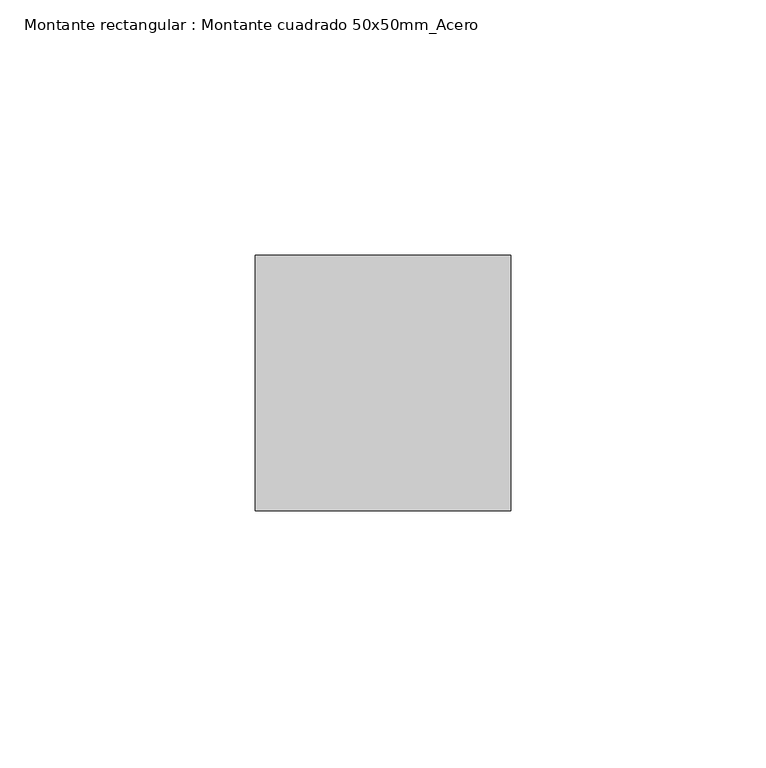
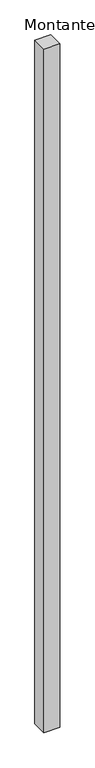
"""IFC4 building model written with IfcOpenShell, lengths in millimetres: member geometry, Montante rectangular : Montante cuadrado 50x50mm_Acero."""

import ifcopenshell
import ifcopenshell.guid

model = None  # the IFC model being written
_history = None  # IfcOwnerHistory: only IFC2X3 demands one
_inside = {}  # id of a spatial element -> (the spatial element, [elements in it])
_under = {}  # id of a project, library or spatial element -> (it, [spatial elements below it])
_declared = {}  # id of a project -> (the project, [libraries it declares])
_typed = {}  # id of a type object -> (the type object, [elements of that type])
_made_of = {}  # id of a material, layer set ... -> (it, [elements and type objects made of it])


def new_model(schema):
    """Start an empty IFC model of exactly this schema.

    Asked for "IFC4X3", IfcOpenShell would pick the latest addendum, in which some entities
    have other attributes; the version numbers below select the first issue.
    IFC2X3 requires an IfcOwnerHistory on every rooted entity: one is made here for all.
    """
    global model, _history
    if schema == "IFC4X3":
        model = ifcopenshell.file(schema_version=(4, 3, 0, 0))
    else:
        model = ifcopenshell.file(schema=schema)
    _inside.clear()
    _under.clear()
    _declared.clear()
    _typed.clear()
    _made_of.clear()
    _history = None
    if model.schema == "IFC2X3":
        org = make("IfcOrganization", Name="unknown")
        user = make(
            "IfcPersonAndOrganization",
            ThePerson=make("IfcPerson", FamilyName="unknown"),
            TheOrganization=org,
        )
        app = make(
            "IfcApplication",
            ApplicationDeveloper=org,
            Version="unknown",
            ApplicationFullName="unknown",
            ApplicationIdentifier="unknown",
        )
        _history = make(
            "IfcOwnerHistory",
            OwningUser=user,
            OwningApplication=app,
            ChangeAction="ADDED",
            CreationDate=0,
        )
    return model


def make(cls, **values):
    """One entity of the class cls with the attributes given. An attribute that is None is left unset."""
    return model.create_entity(
        cls, **{name: value for name, value in values.items() if value is not None}
    )


def rooted(cls, **values):
    """An entity with a GlobalId (a new one), such as an element, a storey or a relation."""
    return make(cls, GlobalId=ifcopenshell.guid.new(), OwnerHistory=_history, **values)


def si_unit(unit_type, name, prefix=None):
    """IfcSIUnit, for example si_unit("LENGTHUNIT", "METRE", prefix="MILLI")."""
    return make("IfcSIUnit", UnitType=unit_type, Prefix=prefix, Name=name)


def assignment(units):
    """IfcUnitAssignment: the units of a project."""
    return None if units is None else make("IfcUnitAssignment", Units=units)


def point(xyz):
    """IfcCartesianPoint."""
    return None if xyz is None else make("IfcCartesianPoint", Coordinates=xyz)


def direction(xyz):
    """IfcDirection."""
    return None if xyz is None else make("IfcDirection", DirectionRatios=xyz)


def frame(location, z_axis=None, x_axis=None):
    """IfcAxis2Placement3D, a coordinate frame: its origin and axes. An axis left out is left unset."""
    return make(
        "IfcAxis2Placement3D",
        Location=point(location),
        Axis=direction(z_axis),
        RefDirection=direction(x_axis),
    )


def origin():
    """The frame at (0, 0, 0) with its axes left unset."""
    return frame((0.0, 0.0, 0.0))


def place(relative_to, where):
    """IfcLocalPlacement: puts the frame where relative to a parent placement (None: the world)."""
    return make(
        "IfcLocalPlacement", PlacementRelTo=relative_to, RelativePlacement=where
    )


def context(
    kind, dimensions, precision=None, world=None, true_north=None, identifier=None
):
    """IfcGeometricRepresentationContext, for example the 3D "Model" context."""
    return make(
        "IfcGeometricRepresentationContext",
        ContextIdentifier=identifier,
        ContextType=kind,
        CoordinateSpaceDimension=dimensions,
        Precision=precision,
        WorldCoordinateSystem=world,
        TrueNorth=true_north,
    )


def project(units=None, contexts=None):
    """IfcProject with its units and contexts."""
    return rooted(
        "IfcProject",
        Name="project",
        RepresentationContexts=contexts,
        UnitsInContext=assignment(units),
    )


def spatial(cls, under=None, at=None, **own):
    """A site, building, storey or space (cls), placed at a placement, below another one or the project."""
    s = rooted(cls, ObjectPlacement=at, **own)
    if under is not None:
        _under.setdefault(under.id(), (under, []))[1].append(s)
    return s


def polyline(points):
    """IfcPolyline through the points."""
    return make("IfcPolyline", Points=[point(p) for p in points])


def outline(outer, holes=None, kind="AREA"):
    """IfcArbitraryClosedProfileDef: a profile drawn as a closed curve; with holes, ...WithVoids."""
    if holes is None:
        return make("IfcArbitraryClosedProfileDef", ProfileType=kind, OuterCurve=outer)
    return make(
        "IfcArbitraryProfileDefWithVoids",
        ProfileType=kind,
        OuterCurve=outer,
        InnerCurves=holes,
    )


def extrude(swept, where, along, depth):
    """IfcExtrudedAreaSolid: the profile swept, set in the frame where, extruded along a direction by depth."""
    return make(
        "IfcExtrudedAreaSolid",
        SweptArea=swept,
        Position=where,
        ExtrudedDirection=direction(along),
        Depth=depth,
    )


def shape(context_of_items, identifier, shape_type, items):
    """IfcShapeRepresentation: the items that make up one representation, for example the "Body"."""
    return make(
        "IfcShapeRepresentation",
        ContextOfItems=context_of_items,
        RepresentationIdentifier=identifier,
        RepresentationType=shape_type,
        Items=items,
    )


def source(mapping_origin, context_of_items, identifier, shape_type, items):
    """IfcRepresentationMap: a shape defined once, which mapped items show again and again."""
    return make(
        "IfcRepresentationMap",
        MappingOrigin=mapping_origin,
        MappedRepresentation=shape(context_of_items, identifier, shape_type, items),
    )


def transform(
    local_origin,
    x_axis=None,
    y_axis=None,
    z_axis=None,
    scale=None,
    scale2=None,
    scale3=None,
    uniform=True,
):
    """IfcCartesianTransformationOperator3D, or its non-uniform kind. x_axis, y_axis, z_axis: its Axis1, 2, 3."""
    if uniform:
        return make(
            "IfcCartesianTransformationOperator3D",
            Axis1=direction(x_axis),
            Axis2=direction(y_axis),
            LocalOrigin=point(local_origin),
            Scale=scale,
            Axis3=direction(z_axis),
        )
    return make(
        "IfcCartesianTransformationOperator3DnonUniform",
        Axis1=direction(x_axis),
        Axis2=direction(y_axis),
        LocalOrigin=point(local_origin),
        Scale=scale,
        Axis3=direction(z_axis),
        Scale2=scale2,
        Scale3=scale3,
    )


def mapped(mapping_source, mapping_target):
    """IfcMappedItem: shows the shape of a source again, moved by a transform."""
    return make(
        "IfcMappedItem", MappingSource=mapping_source, MappingTarget=mapping_target
    )


def made_of(thing, what):
    """Note that an element or type object is made of a material, layer set ...; save() writes the relation."""
    if what is not None:
        _made_of.setdefault(what.id(), (what, []))[1].append(thing)
    return thing


def element(
    cls,
    number,
    at=None,
    inside=None,
    cuts=None,
    type_object=None,
    material=None,
    context=None,
    identifier="Body",
    shape_type=None,
    held_by="IfcProductDefinitionShape",
    body=None,
    shapes=None,
    **own,
):
    """One element of the class cls, such as IfcWall. Its Tag is "e" and its number.

    at: its placement. inside: the storey or other place that contains it. cuts: it is an
    opening in that element (IfcRelVoidsElement). A single representation is given by context,
    identifier, shape_type and body (its items); several are given by shapes. held_by: the class
    of the entity that holds the representations. save() writes the other relations.
    """
    e = rooted(cls, Tag="e%d" % number, ObjectPlacement=at, **own)
    if body is not None:
        shapes = [shape(context, identifier, shape_type, body)]
    if shapes is not None:
        e.Representation = make(held_by, Representations=shapes)
    if inside is not None:
        _inside.setdefault(inside.id(), (inside, []))[1].append(e)
    if cuts is not None:
        rooted(
            "IfcRelVoidsElement", RelatingBuildingElement=cuts, RelatedOpeningElement=e
        )
    if type_object is not None:
        _typed.setdefault(type_object.id(), (type_object, []))[1].append(e)
    return made_of(e, material)


def aggregate(whole, parts):
    """IfcRelAggregates: a whole, such as a stair, and the parts it consists of."""
    return rooted("IfcRelAggregates", RelatingObject=whole, RelatedObjects=parts)


def save(model, path):
    """Write the relations noted so far, then the file.

    IfcRelAggregates (storeys below a building ...), IfcRelContainedInSpatialStructure (elements
    in a storey), IfcRelDefinesByType, IfcRelAssociatesMaterial and IfcRelDeclares: one each for
    every whole, place, type object, material and project.
    """
    for whole, parts in _under.values():
        aggregate(whole, parts)
    for where, things in _inside.values():
        rooted(
            "IfcRelContainedInSpatialStructure",
            RelatedElements=things,
            RelatingStructure=where,
        )
    for kind, things in _typed.values():
        rooted("IfcRelDefinesByType", RelatedObjects=things, RelatingType=kind)
    for what, things in _made_of.values():
        rooted("IfcRelAssociatesMaterial", RelatedObjects=things, RelatingMaterial=what)
    for by, libraries in _declared.values():
        rooted("IfcRelDeclares", RelatingContext=by, RelatedDefinitions=libraries)
    model.write(path)


def montante_rectangular_montante_cuadrado_50x50mm_acero_b99420d8(model_context):
    return source(origin(), model_context, "Body", "SweptSolid", [
        extrude(outline(polyline([(-50.0, 0.0), (0.0, 0.0), (0.0, -50.0), (-50.0, -50.0), (-50.0, 0.0)])), frame((0.0, 0.0, -2300.0), z_axis=(0.0, 0.0, 1.0), x_axis=(1.0, 0.0, 0.0)), (0.0, 0.0, 1.0), 2300.0),
    ])


if __name__ == "__main__":
    model = new_model("IFC4")
    model_context = context("Model", 3, world=origin())
    ifc_project = project(units=[si_unit("LENGTHUNIT", "METRE", prefix="MILLI")], contexts=[model_context])
    site = spatial("IfcSite", under=ifc_project)
    building = spatial("IfcBuilding", under=site)
    placement = place(None, origin())
    montante_rectangular_montante_cuadrado_50x50mm_acero_shape = montante_rectangular_montante_cuadrado_50x50mm_acero_b99420d8(model_context)
    element("IfcMember", 1, ObjectType="Montante rectangular : Montante cuadrado 50x50mm_Acero", at=placement, inside=building, context=model_context, shape_type="MappedRepresentation", body=[
        mapped(montante_rectangular_montante_cuadrado_50x50mm_acero_shape, transform((0.0, 0.0, 0.0), x_axis=(1.0, 0.0, 0.0), y_axis=(0.0, 1.0, 0.0), z_axis=(0.0, 0.0, 1.0))),
    ])
    save(model, "model.ifc")
